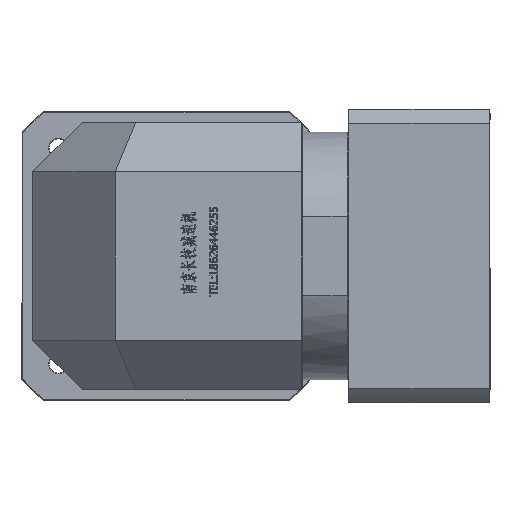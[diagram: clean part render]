
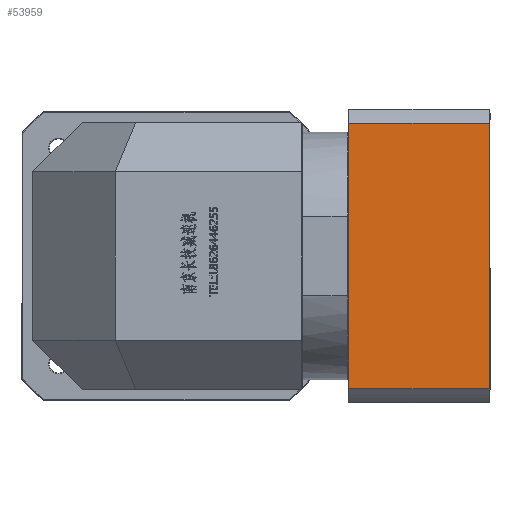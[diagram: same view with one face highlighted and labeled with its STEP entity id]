
A CAD part, left-side view. The second image highlights one B-rep face of the part: STEP entity #53959.
In plain terms, the highlighted planar face has unit normal (-1, 0, 0).
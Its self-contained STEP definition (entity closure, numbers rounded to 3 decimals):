
#12216 = VERTEX_POINT ( 'NONE', #68739 ) ;
#15150 = VERTEX_POINT ( 'NONE', #32879 ) ;
#19006 = VERTEX_POINT ( 'NONE', #118506 ) ;
#26365 = CARTESIAN_POINT ( 'NONE',  ( -84.254, -177.47, 186.206 ) ) ;
#26944 = LINE ( 'NONE', #41140, #49064 ) ;
#31384 = EDGE_CURVE ( 'NONE', #87392, #19006, #83952, .T. ) ;
#32879 = CARTESIAN_POINT ( 'NONE',  ( -84.254, -262.47, 355.698 ) ) ;
#40638 = DIRECTION ( 'NONE',  ( 0., 0., -1. ) ) ;
#41140 = CARTESIAN_POINT ( 'NONE',  ( -84.254, -262.47, 194.206 ) ) ;
#43485 = DIRECTION ( 'NONE',  ( 0., 1., 0. ) ) ;
#43984 = CARTESIAN_POINT ( 'NONE',  ( -84.254, 165.836, 194.713 ) ) ;
#49064 = VECTOR ( 'NONE', #40638, 1000. ) ;
#53959 = ADVANCED_FACE ( 'NONE', ( #81287 ), #70502, .F. ) ;
#59689 = DIRECTION ( 'NONE',  ( 0., 1., 0. ) ) ;
#68739 = CARTESIAN_POINT ( 'NONE',  ( -84.254, -177.47, 355.698 ) ) ;
#70502 = PLANE ( 'NONE',  #125834 ) ;
#72858 = VECTOR ( 'NONE', #43485, 1000. ) ;
#77492 = LINE ( 'NONE', #26365, #99774 ) ;
#77508 = EDGE_CURVE ( 'NONE', #19006, #12216, #77492, .T. ) ;
#81287 = FACE_OUTER_BOUND ( 'NONE', #122984, .T. ) ;
#81724 = ORIENTED_EDGE ( 'NONE', *, *, #77508, .F. ) ;
#82885 = DIRECTION ( 'NONE',  ( 1., 0., 0. ) ) ;
#83952 = LINE ( 'NONE', #43984, #72858 ) ;
#86499 = DIRECTION ( 'NONE',  ( 0., 0., 1. ) ) ;
#87392 = VERTEX_POINT ( 'NONE', #97705 ) ;
#92512 = ORIENTED_EDGE ( 'NONE', *, *, #110537, .F. ) ;
#95314 = CARTESIAN_POINT ( 'NONE',  ( -84.254, -262.97, 186.206 ) ) ;
#97705 = CARTESIAN_POINT ( 'NONE',  ( -84.254, -262.47, 194.713 ) ) ;
#99774 = VECTOR ( 'NONE', #86499, 1000. ) ;
#110537 = EDGE_CURVE ( 'NONE', #12216, #15150, #123500, .T. ) ;
#113051 = DIRECTION ( 'NONE',  ( 0., -1., 0. ) ) ;
#114265 = ORIENTED_EDGE ( 'NONE', *, *, #31384, .F. ) ;
#116704 = ORIENTED_EDGE ( 'NONE', *, *, #128353, .F. ) ;
#118506 = CARTESIAN_POINT ( 'NONE',  ( -84.254, -177.47, 194.713 ) ) ;
#122984 = EDGE_LOOP ( 'NONE', ( #92512, #81724, #114265, #116704 ) ) ;
#123500 = LINE ( 'NONE', #137685, #147414 ) ;
#125834 = AXIS2_PLACEMENT_3D ( 'NONE', #95314, #82885, #59689 ) ;
#128353 = EDGE_CURVE ( 'NONE', #15150, #87392, #26944, .T. ) ;
#137685 = CARTESIAN_POINT ( 'NONE',  ( -84.254, 165.836, 355.698 ) ) ;
#147414 = VECTOR ( 'NONE', #113051, 1000. ) ;
